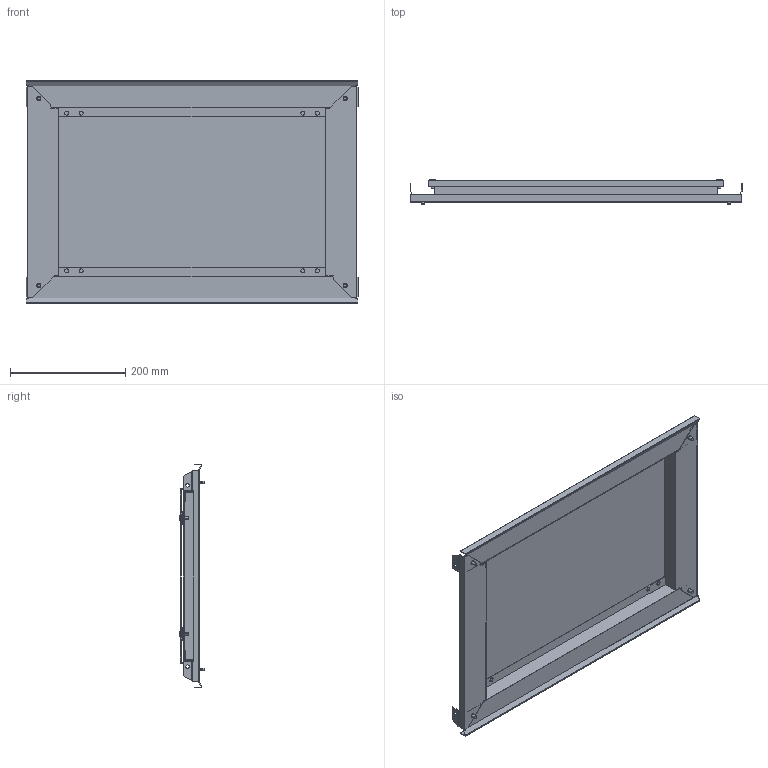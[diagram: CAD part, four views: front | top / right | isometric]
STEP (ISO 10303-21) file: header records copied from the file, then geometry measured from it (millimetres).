
FILE_DESCRIPTION((''),'2;1');
FILE_NAME('1758690977877_ASM','2025-09-24T10:46:36',('SESA739797'),('Schneider-Electric'),'CREO PARAMETRIC BY PTC INC, 2022484','CREO PARAMETRIC BY PTC INC, 2022484','');
FILE_SCHEMA(('AP242_MANAGED_MODEL_BASED_3D_ENGINEERING_MIM_LF { 1 0 10303 442 1 1 4 }'));
Length unit declared in the file: millimetre
Products named in the file (7): EMPTYNODE_1758690977902_ASM; SB106371_469758400; SB106371_469758900; SB106371_469759400; GHQ2483100; SB106371_ASM; 1758690977877_ASM
Assembly tree (15 placements, depth 3):
  1758690977877_ASM
    EMPTYNODE_1758690977902_ASM
    SB106371_ASM
      SB106371_469758400  x2
      SB106371_469758900  x2
      SB106371_469759400
      GHQ2483100  x8
Bounding box: 575 x 42 x 387 mm (x, y, z)
Volume: 407909.8 mm3; surface area: 701294.5 mm2
Topology: 13 solids, 13 shells, 532 faces, 1406 edges, 932 vertices
Faces by surface type: plane 352, cylinder 148, torus 16, revolution 16
Entity records: 7776 total; most frequent: CARTESIAN_POINT 1079, DIRECTION 1017, ORIENTED_EDGE 986, PRESENTATION_STYLE_ASSIGNMENT 497, STYLED_ITEM 497, CURVE_STYLE 493, EDGE_CURVE 493, VECTOR 387
